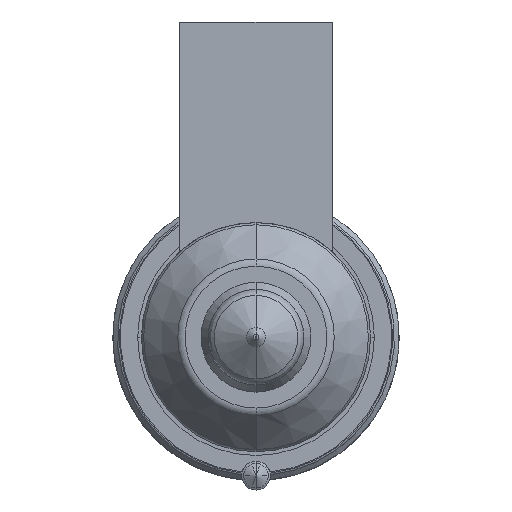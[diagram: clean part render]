
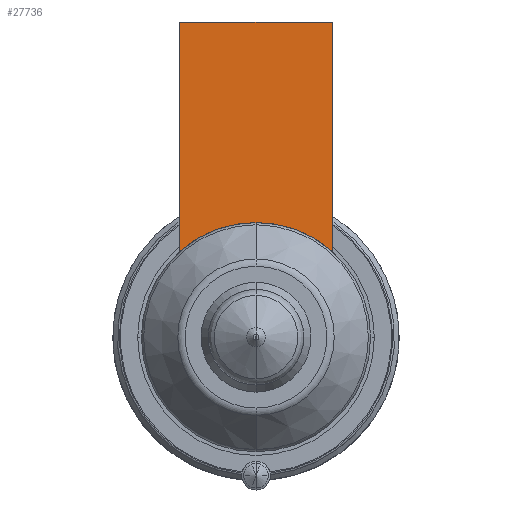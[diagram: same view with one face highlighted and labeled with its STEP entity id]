
A CAD part, front view. The second image highlights one B-rep face of the part: STEP entity #27736.
In plain terms, the highlighted planar face has unit normal (0, -1, 0).
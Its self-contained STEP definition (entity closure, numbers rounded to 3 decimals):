
#26884=DIRECTION('',(0.,0.,-1.));
#26885=VECTOR('',#26884,24.056);
#26886=CARTESIAN_POINT('',(-8.,-56.,33.));
#26887=LINE('',#26886,#26885);
#26924=DIRECTION('',(1.,0.,0.));
#26925=VECTOR('',#26924,16.);
#26926=CARTESIAN_POINT('',(-8.,-56.,33.));
#26927=LINE('',#26926,#26925);
#26931=CARTESIAN_POINT('',(0.,-56.,0.));
#26932=DIRECTION('',(0.,-1.,0.));
#26933=DIRECTION('',(0.667,0.,0.745));
#26934=AXIS2_PLACEMENT_3D('',#26931,#26932,#26933);
#26939=CARTESIAN_POINT('',(0.,-56.,0.));
#26940=DIRECTION('',(0.,-1.,0.));
#26941=DIRECTION('',(0.,0.,1.));
#26942=AXIS2_PLACEMENT_3D('',#26939,#26940,#26941);
#26975=DIRECTION('',(0.,0.,-1.));
#26976=VECTOR('',#26975,24.056);
#26977=CARTESIAN_POINT('',(8.,-56.,33.));
#26978=LINE('',#26977,#26976);
#27580=CARTESIAN_POINT('',(-8.,-56.,33.));
#27581=VERTEX_POINT('',#27580);
#27586=CARTESIAN_POINT('',(8.,-56.,33.));
#27587=VERTEX_POINT('',#27586);
#27590=CARTESIAN_POINT('',(-8.,-56.,8.944));
#27591=VERTEX_POINT('',#27590);
#27594=CARTESIAN_POINT('',(8.,-56.,8.944));
#27595=VERTEX_POINT('',#27594);
#27655=CARTESIAN_POINT('',(0.,-56.,12.));
#27656=VERTEX_POINT('',#27655);
#27721=CARTESIAN_POINT('',(-8.,-56.,33.));
#27722=DIRECTION('',(0.,-1.,0.));
#27723=DIRECTION('',(0.,0.,-1.));
#27724=AXIS2_PLACEMENT_3D('',#27721,#27722,#27723);
#27725=PLANE('',#27724);
#27726=ORIENTED_EDGE('',*,*,#27669,.F.);
#27728=ORIENTED_EDGE('',*,*,#27727,.T.);
#27730=ORIENTED_EDGE('',*,*,#27729,.T.);
#27732=ORIENTED_EDGE('',*,*,#27731,.T.);
#27733=ORIENTED_EDGE('',*,*,#27701,.T.);
#27734=EDGE_LOOP('',(#27726,#27728,#27730,#27732,#27733));
#27735=FACE_OUTER_BOUND('',#27734,.F.);
#27736=ADVANCED_FACE('',(#27735),#27725,.T.);
#26935=CIRCLE('',#26934,12.);
#26943=CIRCLE('',#26942,12.);
#27669=EDGE_CURVE('',#27581,#27591,#26887,.T.);
#27701=EDGE_CURVE('',#27656,#27591,#26943,.T.);
#27727=EDGE_CURVE('',#27581,#27587,#26927,.T.);
#27729=EDGE_CURVE('',#27587,#27595,#26978,.T.);
#27731=EDGE_CURVE('',#27595,#27656,#26935,.T.);
